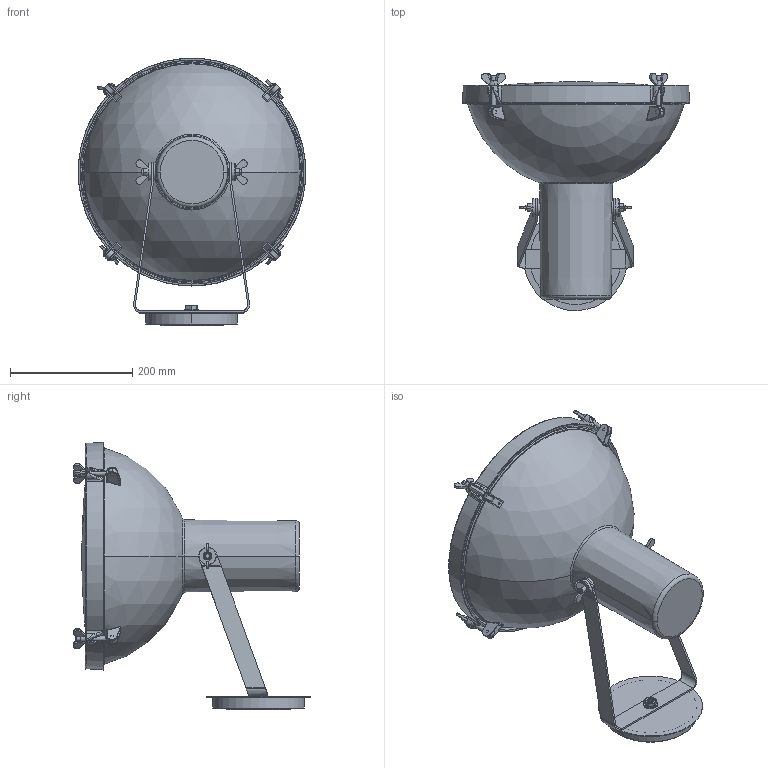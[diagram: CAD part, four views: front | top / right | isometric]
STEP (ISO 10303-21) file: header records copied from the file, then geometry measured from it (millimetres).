
FILE_DESCRIPTION (( 'STEP AP214' ), '1' );
FILE_NAME ('3D_PROJECTEUR_365.STEP', '2018-03-15T16:02:06', ( 'Utente' ), ( '' ), 'SwSTEP 2.0', 'SolidWorks 2016', '' );
FILE_SCHEMA (( 'AUTOMOTIVE_DESIGN' ));
Length unit declared in the file: millimetre
Products named in the file (16): Ranella 10x21x2 001659200010MARTIMMM-1^3D_PROJECTEUR_365; ranella 10.5x17x1 steab 5300-10-1-2MARTIMMM-1^3D_PROJECTEUR_365; Group5^3D_PROJECTEUR_365; Group4^3D_PROJECTEUR_365; 3D_PROJECTEUR_365; 061PRJ000100_VETRO PROJECTEUR 365MARTIMMM-2^3D_PROJECTEUR_365; Molla a tazza 7130020x10_2x0_4MARTIMMM-2^3D_PROJECTEUR_365; Ranella 10x21x2 001659200010MARTIMMM-2^3D_PROJECTEUR_365; ranella 10.5x17x1 steab 5300-10-1-2MARTIMMM-2^3D_PROJECTEUR_365; Molla a tazza 7130020x10_2x0_4MARTIMMM-1^3D_PROJECTEUR_365; 010PRJ001300_BUSSOLA OTTONE ZN N M4X5,8X10MARTIMMM-4^3D_PROJECTEUR_365; 010PRJ001300_BUSSOLA OTTONE ZN N M4X5,8X10MARTIMMM-7^3D_PROJECTEUR_365; 010PRJ001300_BUSSOLA OTTONE ZN N M4X5,8X10MARTIMMM-6^3D_PROJECTEUR_365; 010PRJ001300_BUSSOLA OTTONE ZN N M4X5,8X10MARTIMMM-5^3D_PROJECTEUR_365; spina 3x5MARTIMMM-1^3D_PROJECTEUR_365; Steab 5101 passacavoMARTIMMM-5^3D_PROJECTEUR_365
Assembly tree (15 placements, depth 2):
  3D_PROJECTEUR_365
    Group4^3D_PROJECTEUR_365
    Group5^3D_PROJECTEUR_365
    ranella 10.5x17x1 steab 5300-10-1-2MARTIMMM-1^3D_PROJECTEUR_365
    Ranella 10x21x2 001659200010MARTIMMM-1^3D_PROJECTEUR_365
    Steab 5101 passacavoMARTIMMM-5^3D_PROJECTEUR_365
    spina 3x5MARTIMMM-1^3D_PROJECTEUR_365
    010PRJ001300_BUSSOLA OTTONE ZN N M4X5,8X10MARTIMMM-5^3D_PROJECTEUR_365
    010PRJ001300_BUSSOLA OTTONE ZN N M4X5,8X10MARTIMMM-6^3D_PROJECTEUR_365
    010PRJ001300_BUSSOLA OTTONE ZN N M4X5,8X10MARTIMMM-7^3D_PROJECTEUR_365
    010PRJ001300_BUSSOLA OTTONE ZN N M4X5,8X10MARTIMMM-4^3D_PROJECTEUR_365
    Molla a tazza 7130020x10_2x0_4MARTIMMM-1^3D_PROJECTEUR_365
    ranella 10.5x17x1 steab 5300-10-1-2MARTIMMM-2^3D_PROJECTEUR_365
    Ranella 10x21x2 001659200010MARTIMMM-2^3D_PROJECTEUR_365
    Molla a tazza 7130020x10_2x0_4MARTIMMM-2^3D_PROJECTEUR_365
    061PRJ000100_VETRO PROJECTEUR 365MARTIMMM-2^3D_PROJECTEUR_365
Bounding box: 372.96 x 387.62 x 438.18 mm (x, y, z)
Volume: 11304757 mm3; surface area: 832743.6 mm2
Topology: 23 solids, 23 shells, 891 faces, 2083 edges, 1276 vertices
Faces by surface type: plane 257, cylinder 231, bspline 196, cone 165, torus 40, sphere 2
Entity records: 45381 total; most frequent: CARTESIAN_POINT 23940, ORIENTED_EDGE 4148, DIRECTION 3495, EDGE_CURVE 2074, AXIS2_PLACEMENT_3D 1420, VERTEX_POINT 1276, EDGE_LOOP 978, ADVANCED_FACE 891
